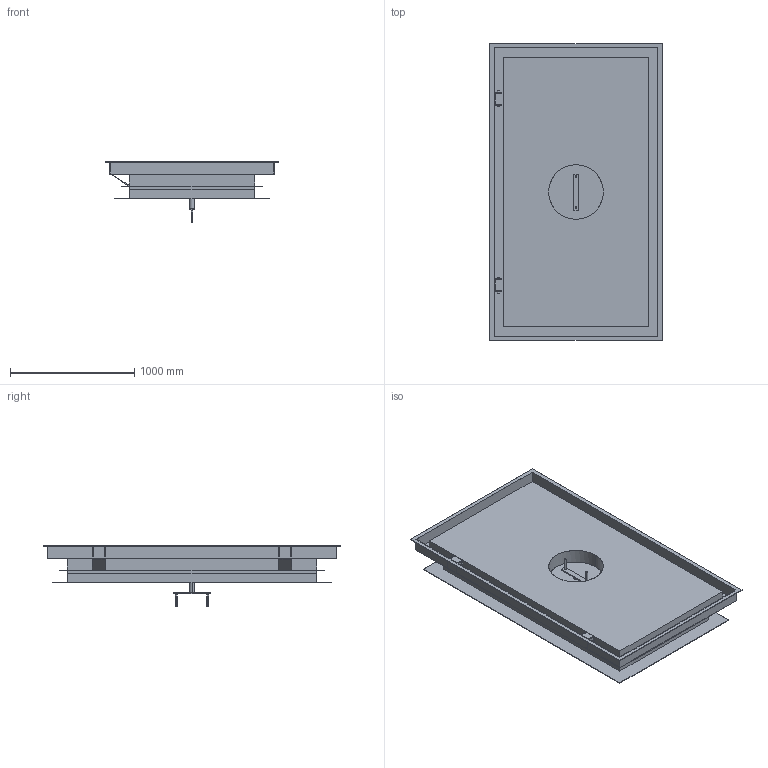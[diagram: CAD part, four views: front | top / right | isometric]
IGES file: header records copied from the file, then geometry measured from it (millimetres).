
Start section:  PTC IGES file: 51834665.igs
Global section: file name: 51834665.igs; native system: Creo Parametric by PTC Inc.; preprocessor: 2022162; author: ka; organization: Unknown; date: 20240216.112101; units: millimetre
Bounding box: 1390 x 2390 x 489 mm (x, y, z)
Surface area: 13727237.2 mm2 (no closed solid volume)
Topology: 0 solids, 0 shells, 134 faces, 652 edges, 652 vertices
Faces by surface type: bspline 112, revolution 22
